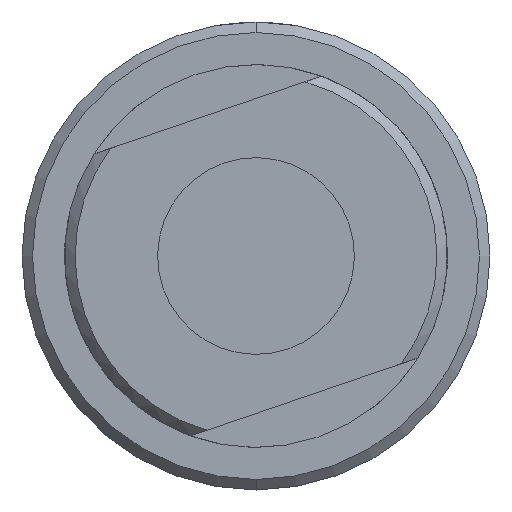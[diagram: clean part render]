
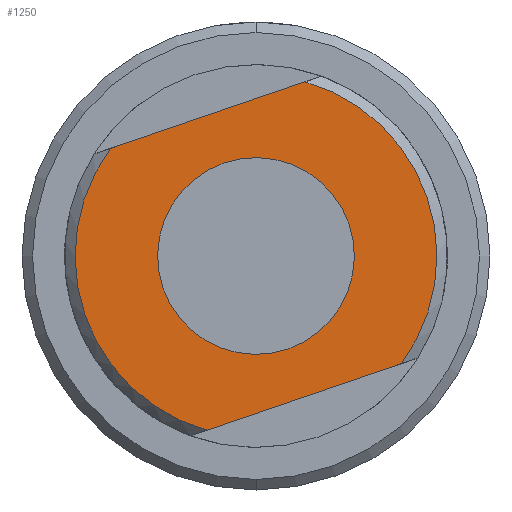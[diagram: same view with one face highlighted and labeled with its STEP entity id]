
A CAD part, front view. The second image highlights one B-rep face of the part: STEP entity #1250.
In plain terms, the highlighted planar face has unit normal (0, -1, 0).
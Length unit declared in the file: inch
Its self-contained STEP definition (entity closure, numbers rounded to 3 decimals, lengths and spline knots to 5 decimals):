
#25 = CARTESIAN_POINT ( 'NONE',  ( -0.62022, -1.0464, 0.41913 ) ) ;
#51 = DIRECTION ( 'NONE',  ( -0.324, 0., 0.946 ) ) ;
#52 = EDGE_LOOP ( 'NONE', ( #2421, #2990 ) ) ;
#135 = VERTEX_POINT ( 'NONE', #1563 ) ;
#222 = DIRECTION ( 'NONE',  ( 0., -1., 0. ) ) ;
#229 = DIRECTION ( 'NONE',  ( -0.324, 0., 0.946 ) ) ;
#291 = ORIENTED_EDGE ( 'NONE', *, *, #2910, .F. ) ;
#312 = CARTESIAN_POINT ( 'NONE',  ( 0.28324, -1.0464, -0.1964 ) ) ;
#463 = CARTESIAN_POINT ( 'NONE',  ( -0.14401, -1.0464, 0.11974 ) ) ;
#614 = EDGE_LOOP ( 'NONE', ( #291, #1511, #1426, #1415 ) ) ;
#662 = VERTEX_POINT ( 'NONE', #2804 ) ;
#675 = AXIS2_PLACEMENT_3D ( 'NONE', #1290, #2987, #1534 ) ;
#694 = DIRECTION ( 'NONE',  ( -0.324, 0., 0.946 ) ) ;
#895 = VERTEX_POINT ( 'NONE', #1136 ) ;
#983 = FACE_OUTER_BOUND ( 'NONE', #614, .T. ) ;
#1136 = CARTESIAN_POINT ( 'NONE',  ( -0.28782, -1.0464, -0.39193 ) ) ;
#1150 = CARTESIAN_POINT ( 'NONE',  ( -0.57126, -1.0464, 0.43589 ) ) ;
#1250 = ADVANCED_FACE ( 'NONE', ( #1633, #983 ), #2154, .T. ) ;
#1255 = DIRECTION ( 'NONE',  ( -0.946, 0., -0.324 ) ) ;
#1290 = CARTESIAN_POINT ( 'NONE',  ( -0.14401, -1.0464, 0.11974 ) ) ;
#1415 = ORIENTED_EDGE ( 'NONE', *, *, #2974, .T. ) ;
#1426 = ORIENTED_EDGE ( 'NONE', *, *, #2934, .F. ) ;
#1474 = AXIS2_PLACEMENT_3D ( 'NONE', #3122, #1697, #229 ) ;
#1483 = DIRECTION ( 'NONE',  ( 0.946, 0., 0.324 ) ) ;
#1511 = ORIENTED_EDGE ( 'NONE', *, *, #2466, .T. ) ;
#1518 = DIRECTION ( 'NONE',  ( 0., -1., 0. ) ) ;
#1534 = DIRECTION ( 'NONE',  ( -0.324, 0., 0.946 ) ) ;
#1563 = CARTESIAN_POINT ( 'NONE',  ( -0.23764, -1.0464, 0.39321 ) ) ;
#1633 = FACE_BOUND ( 'NONE', #52, .T. ) ;
#1697 = DIRECTION ( 'NONE',  ( 0., -1., 0. ) ) ;
#1707 = VERTEX_POINT ( 'NONE', #1150 ) ;
#1736 = VECTOR ( 'NONE', #1255, 39.37008 ) ;
#1771 = EDGE_CURVE ( 'NONE', #662, #135, #1938, .T. ) ;
#1802 = LINE ( 'NONE', #1972, #1736 ) ;
#1866 = AXIS2_PLACEMENT_3D ( 'NONE', #2972, #1518, #51 ) ;
#1916 = DIRECTION ( 'NONE',  ( -0.324, 0., 0.946 ) ) ;
#1938 = CIRCLE ( 'NONE', #2605, 0.28905 ) ;
#1972 = CARTESIAN_POINT ( 'NONE',  ( -0.33678, -1.0464, -0.40869 ) ) ;
#2027 = CIRCLE ( 'NONE', #1474, 0.28905 ) ;
#2150 = CIRCLE ( 'NONE', #675, 0.5315 ) ;
#2154 = PLANE ( 'NONE',  #2408 ) ;
#2158 = DIRECTION ( 'NONE',  ( 0., -1., 0. ) ) ;
#2317 = CARTESIAN_POINT ( 'NONE',  ( -0.0002, -1.0464, 0.63142 ) ) ;
#2408 = AXIS2_PLACEMENT_3D ( 'NONE', #2893, #222, #1916 ) ;
#2421 = ORIENTED_EDGE ( 'NONE', *, *, #1771, .F. ) ;
#2460 = VERTEX_POINT ( 'NONE', #312 ) ;
#2466 = EDGE_CURVE ( 'NONE', #1707, #895, #2150, .T. ) ;
#2523 = LINE ( 'NONE', #25, #3009 ) ;
#2605 = AXIS2_PLACEMENT_3D ( 'NONE', #463, #2158, #694 ) ;
#2612 = VERTEX_POINT ( 'NONE', #2317 ) ;
#2791 = EDGE_CURVE ( 'NONE', #135, #662, #2027, .T. ) ;
#2804 = CARTESIAN_POINT ( 'NONE',  ( -0.05038, -1.0464, -0.15372 ) ) ;
#2864 = CIRCLE ( 'NONE', #1866, 0.5315 ) ;
#2893 = CARTESIAN_POINT ( 'NONE',  ( 0.38816, -1.0464, 0.30195 ) ) ;
#2910 = EDGE_CURVE ( 'NONE', #1707, #2612, #2523, .T. ) ;
#2934 = EDGE_CURVE ( 'NONE', #2460, #895, #1802, .T. ) ;
#2972 = CARTESIAN_POINT ( 'NONE',  ( -0.14401, -1.0464, 0.11974 ) ) ;
#2974 = EDGE_CURVE ( 'NONE', #2460, #2612, #2864, .T. ) ;
#2987 = DIRECTION ( 'NONE',  ( 0., -1., 0. ) ) ;
#2990 = ORIENTED_EDGE ( 'NONE', *, *, #2791, .F. ) ;
#3009 = VECTOR ( 'NONE', #1483, 39.37008 ) ;
#3122 = CARTESIAN_POINT ( 'NONE',  ( -0.14401, -1.0464, 0.11974 ) ) ;
